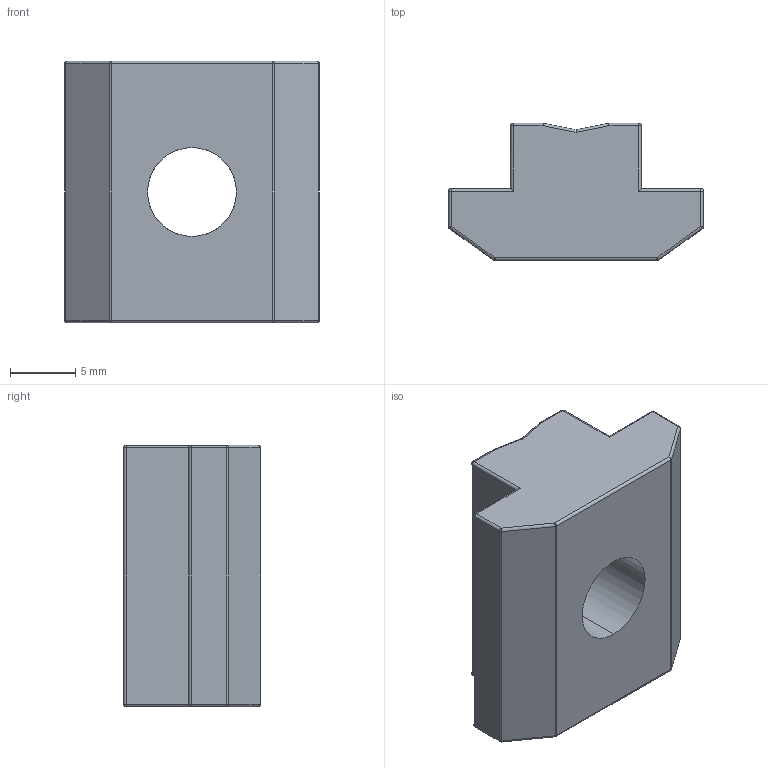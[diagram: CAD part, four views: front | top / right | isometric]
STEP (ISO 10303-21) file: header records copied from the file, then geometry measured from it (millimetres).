
FILE_DESCRIPTION (( 'STEP AP203' ), '1' );
FILE_NAME ('SLN8-104545.STEP', '2018-03-15T12:21:20', ( '' ), ( '' ), 'SwSTEP 2.0', 'SolidWorks 2013', '' );
FILE_SCHEMA (( 'CONFIG_CONTROL_DESIGN' ));
Length unit declared in the file: millimetre
Products named in the file (1): SLN8-104545
Bounding box: 19.5 x 10.5 x 20 mm (x, y, z)
Volume: 2570 mm3; surface area: 1559.5 mm2
Topology: 1 solids, 1 shells, 73 faces, 166 edges, 80 vertices
Faces by surface type: cylinder 38, sphere 18, plane 17
Entity records: 1955 total; most frequent: CARTESIAN_POINT 348, DIRECTION 344, ORIENTED_EDGE 304, EDGE_CURVE 152, AXIS2_PLACEMENT_3D 132, VECTOR 80, LINE 80, VERTEX_POINT 80
